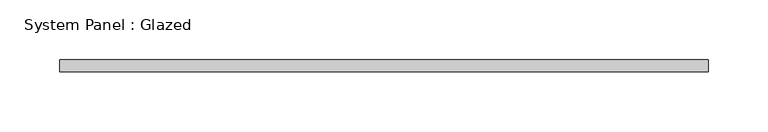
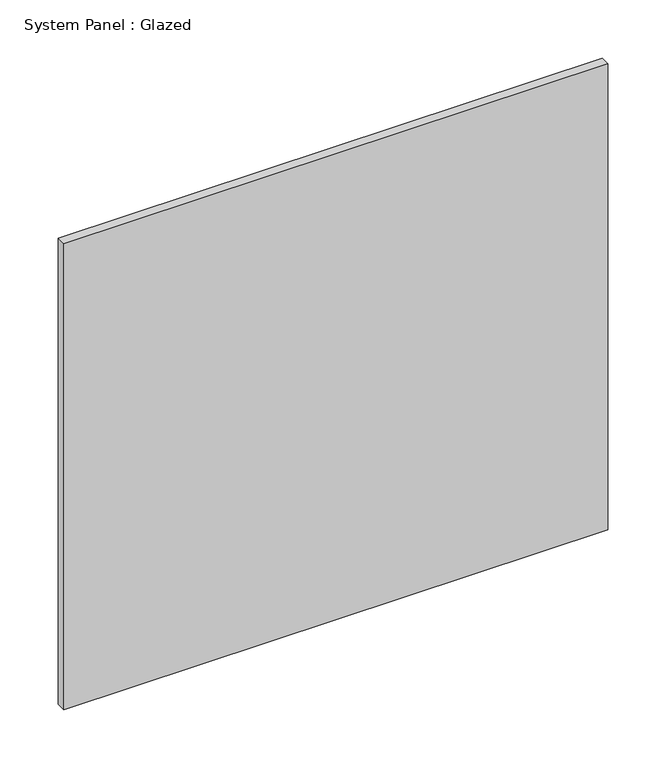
"""IFC4 building model written with IfcOpenShell, lengths in millimetres: plate geometry, System Panel : Glazed."""

from ifc_helpers import new_model, si_unit, origin, origin_with_axes, place, context, project, spatial, polyline, outline, extrude, source, transform, mapped, element, save


def system_panel_glazed_4fc68407(model_context):
    return source(origin(), model_context, "Body", "SweptSolid", [
        extrude(outline(polyline([(270.5149215, -5.0), (-270.5149215, -5.0), (-270.5149215, 5.0), (270.5149215, 5.0), (270.5149215, -5.0)])), origin_with_axes(), (0.0, 0.0, 1.0), 490.0),
    ])


if __name__ == "__main__":
    model = new_model("IFC4")
    model_context = context("Model", 3, world=origin())
    ifc_project = project(units=[si_unit("LENGTHUNIT", "METRE", prefix="MILLI")], contexts=[model_context])
    site = spatial("IfcSite", under=ifc_project)
    building = spatial("IfcBuilding", under=site)
    placement = place(None, origin())
    system_panel_glazed_shape = system_panel_glazed_4fc68407(model_context)
    element("IfcPlate", 1, ObjectType="System Panel : Glazed", at=placement, inside=building, context=model_context, shape_type="MappedRepresentation", body=[
        mapped(system_panel_glazed_shape, transform((0.0, 0.0, 0.0), x_axis=(1.0, 0.0, 0.0), y_axis=(0.0, 1.0, 0.0), z_axis=(0.0, 0.0, 1.0))),
    ])
    save(model, "model.ifc")
